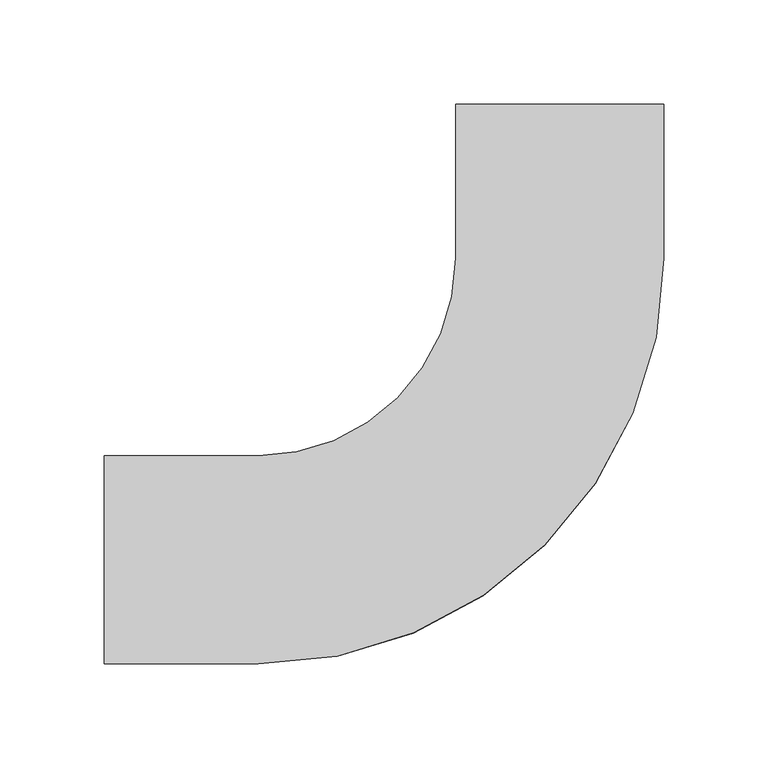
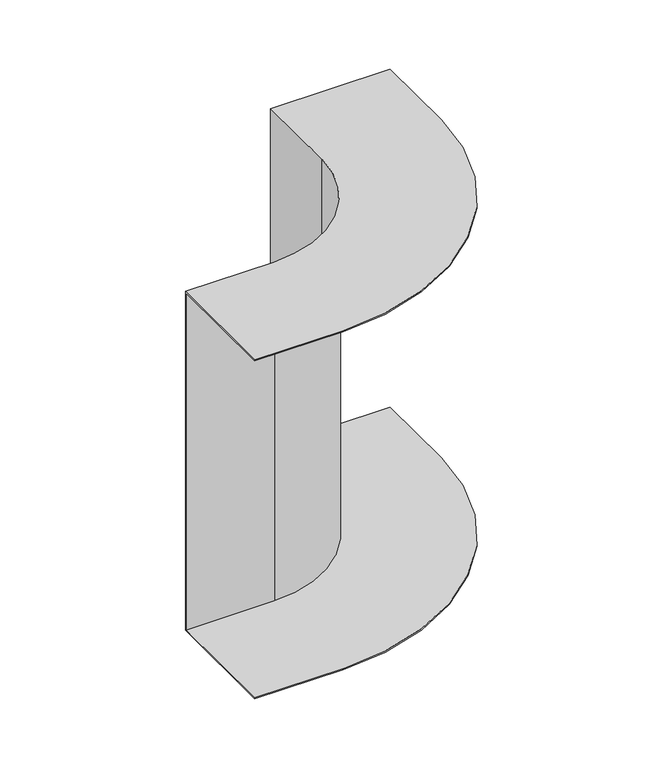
"""IFC4 building model written with IfcOpenShell, lengths in millimetres: cable carrier fitting geometry, BAKS_KK_Vertical bend INTERNAL_LU : LUNJ_H100."""

from ifc_helpers import new_model, si_unit, frame, origin, place, context, project, spatial, polyline, circle_curve, source, transform, mapped, element, save
from ifc_brep_helpers import plane_surface, cylinder_surface, revolved_surface, advanced_brep


def cable_carrier_fitting_0a0ebc2e(model_context):
    return source(origin(), model_context, "Body", "AdvancedBrep", [
        advanced_brep(
        [(-219.0, -50.0, 150.0), (-219.0, 50.0, 150.0), (-219.0, 50.0, -150.0), (-219.0, -50.0, -150.0), (-219.0, -50.0, -149.0), (-219.0, 49.0, -149.0), (-219.0, 49.0, 149.0), (-219.0, -50.0, 149.0), (50.0, 219.0, 150.0), (50.0, 219.0, 149.0), (-49.0, 219.0, 149.0), (-49.0, 219.0, -149.0), (50.0, 219.0, -149.0), (50.0, 219.0, -150.0), (-50.0, 219.0, -150.0), (-50.0, 219.0, 150.0), (-145.0, -50.0, 150.0), (50.0, 145.0, 150.0), (-50.0, 145.0, 150.0), (-145.0, 50.0, 150.0), (-145.0, 50.0, -150.0), (-50.0, 145.0, -150.0), (50.0, 145.0, -150.0), (-145.0, -50.0, -150.0), (-145.0, -50.0, -149.0), (50.0, 145.0, -149.0), (-49.0, 145.0, -149.0), (-145.0, 49.0, -149.0), (-145.0, 49.0, 149.0), (-49.0, 145.0, 149.0), (50.0, 145.0, 149.0), (-145.0, -50.0, 149.0)],
        [
            (0, 1),
            (1, 2),
            (2, 3),
            (3, 4),
            (4, 5),
            (5, 6),
            (6, 7),
            (7, 0),
            (8, 9),
            (9, 10),
            (10, 11),
            (11, 12),
            (12, 13),
            (13, 14),
            (14, 15),
            (15, 8),
            (0, 16),
            (16, 17, circle_curve(frame((-145.0, 145.0, 150.0), z_axis=(0.0, 0.0, 1.0), x_axis=(0.0, -1.0, 0.0)), 195.0)),
            (17, 8),
            (15, 18),
            (18, 19, circle_curve(frame((-145.0, 145.0, 150.0), z_axis=(0.0, 0.0, -1.0), x_axis=(0.0, -1.0, 0.0)), 95.0)),
            (19, 1),
            (19, 20),
            (20, 2),
            (20, 21, circle_curve(frame((-145.0, 145.0, -150.0), z_axis=(0.0, 0.0, 1.0), x_axis=(0.0, -1.0, 0.0)), 95.0)),
            (21, 14),
            (13, 22),
            (22, 23, circle_curve(frame((-145.0, 145.0, -150.0), z_axis=(0.0, 0.0, -1.0), x_axis=(0.0, -1.0, 0.0)), 195.0)),
            (23, 3),
            (23, 24),
            (24, 4),
            (24, 25, circle_curve(frame((-145.0, 145.0, -149.0), z_axis=(0.0, 0.0, 1.0), x_axis=(0.0, -1.0, 0.0)), 195.0)),
            (25, 12),
            (11, 26),
            (26, 27, circle_curve(frame((-145.0, 145.0, -149.0), z_axis=(0.0, 0.0, -1.0), x_axis=(0.0, -1.0, 0.0)), 96.0)),
            (27, 5),
            (27, 28),
            (28, 6),
            (28, 29, circle_curve(frame((-145.0, 145.0, 149.0), z_axis=(0.0, 0.0, 1.0), x_axis=(0.0, -1.0, 0.0)), 96.0)),
            (29, 10),
            (9, 30),
            (30, 31, circle_curve(frame((-145.0, 145.0, 149.0), z_axis=(0.0, 0.0, -1.0), x_axis=(0.0, -1.0, 0.0)), 195.0)),
            (31, 7),
            (31, 16),
            (18, 21),
            (22, 25),
            (26, 29),
            (30, 17),
        ],
        [
            plane_surface(frame((-219.0, 0.0, 0.0), z_axis=(-1.0, 0.0, 0.0), x_axis=(0.0, 0.0, 1.0))),
            plane_surface(frame((0.0, 219.0, 0.0), z_axis=(0.0, 1.0, 0.0), x_axis=(0.0, 0.0, 1.0))),
            plane_surface(frame((-219.0, -50.0, 150.0), z_axis=(0.0, 0.0, 1.0), x_axis=(1.0, 0.0, 0.0))),
            plane_surface(frame((-219.0, 50.0, 150.0), z_axis=(0.0, 1.0, 0.0), x_axis=(1.0, 0.0, 0.0))),
            plane_surface(frame((-219.0, 50.0, -150.0), z_axis=(0.0, 0.0, -1.0), x_axis=(1.0, 0.0, 0.0))),
            plane_surface(frame((-219.0, -50.0, -150.0), z_axis=(0.0, -1.0, 0.0), x_axis=(1.0, 0.0, 0.0))),
            plane_surface(frame((-219.0, -50.0, -149.0), z_axis=(0.0, 0.0, 1.0), x_axis=(1.0, 0.0, 0.0))),
            plane_surface(frame((-219.0, 49.0, -149.0), z_axis=(0.0, -1.0, 0.0), x_axis=(1.0, 0.0, 0.0))),
            plane_surface(frame((-219.0, 49.0, 149.0), z_axis=(0.0, 0.0, -1.0), x_axis=(1.0, 0.0, 0.0))),
            plane_surface(frame((-219.0, -50.0, 149.0), z_axis=(0.0, -1.0, 0.0), x_axis=(1.0, 0.0, 0.0))),
            revolved_surface(polyline([(-145.0, 50.0, 150.0), (-145.0, 50.0, -150.0)]), (-145.0, 145.0, 0.0), (0.0, 0.0, 1.0)),
            cylinder_surface(frame((-145.0, 145.0, 0.0), z_axis=(0.0, 0.0, 1.0), x_axis=(0.0, -1.0, 0.0)), 195.0),
            cylinder_surface(frame((-145.0, 145.0, 0.0), z_axis=(0.0, 0.0, 1.0), x_axis=(0.0, -1.0, 0.0)), 96.0),
            plane_surface(frame((-50.0, 145.0, 150.0), z_axis=(-1.0, 0.0, 0.0), x_axis=(0.0, 1.0, 0.0))),
            plane_surface(frame((50.0, 145.0, -150.0), z_axis=(1.0, 0.0, 0.0), x_axis=(0.0, 1.0, 0.0))),
            plane_surface(frame((-49.0, 145.0, -149.0), z_axis=(1.0, 0.0, 0.0), x_axis=(0.0, 1.0, 0.0))),
            plane_surface(frame((50.0, 145.0, 149.0), z_axis=(1.0, 0.0, 0.0), x_axis=(0.0, 1.0, 0.0))),
        ],
        [
            (0, [[1, 2, 3, 4, 5, 6, 7, 8]]),
            (1, [[9, 10, 11, 12, 13, 14, 15, 16]]),
            (2, [[-1, 17, 18, 19, -16, 20, 21, 22]]),
            (3, [[-2, -22, 23, 24]]),
            (4, [[-3, -24, 25, 26, -14, 27, 28, 29]]),
            (5, [[-4, -29, 30, 31]]),
            (6, [[-5, -31, 32, 33, -12, 34, 35, 36]]),
            (7, [[-6, -36, 37, 38]]),
            (8, [[-7, -38, 39, 40, -10, 41, 42, 43]]),
            (9, [[-8, -43, 44, -17]]),
            (10, [[-25, -23, -21, 45]]),
            (11, [[-32, -30, -28, 46]]),
            (12, [[-39, -37, -35, 47]]),
            (11, [[-18, -44, -42, 48]]),
            (13, [[-45, -20, -15, -26]]),
            (14, [[-46, -27, -13, -33]]),
            (15, [[-47, -34, -11, -40]]),
            (16, [[-48, -41, -9, -19]]),
        ],
    ),
    ])


if __name__ == "__main__":
    model = new_model("IFC4")
    model_context = context("Model", 3, world=origin())
    ifc_project = project(units=[si_unit("LENGTHUNIT", "METRE", prefix="MILLI")], contexts=[model_context])
    site = spatial("IfcSite", under=ifc_project)
    building = spatial("IfcBuilding", under=site)
    placement = place(None, origin())
    cable_carrier_fitting_shape = cable_carrier_fitting_0a0ebc2e(model_context)
    element("IfcCableCarrierFitting", 1, ObjectType="BAKS_KK_Vertical bend INTERNAL_LU : LUNJ_H100", at=placement, inside=building, context=model_context, shape_type="MappedRepresentation", body=[
        mapped(cable_carrier_fitting_shape, transform((0.0, 0.0, 0.0), x_axis=(1.0, 0.0, 0.0), y_axis=(0.0, 1.0, 0.0), z_axis=(0.0, 0.0, 1.0))),
    ])
    save(model, "model.ifc")
